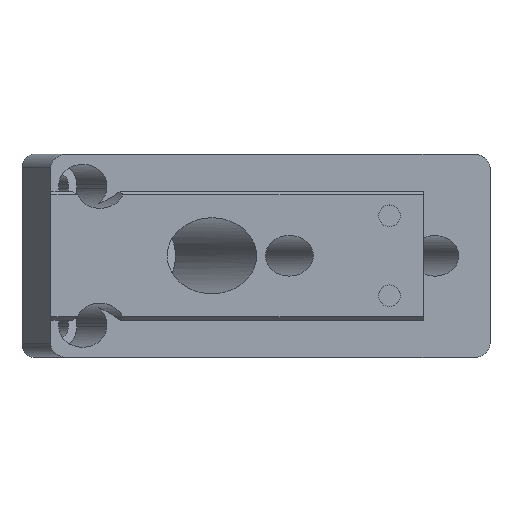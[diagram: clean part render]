
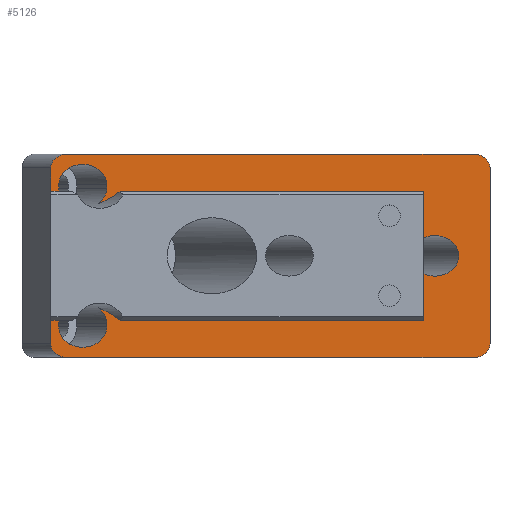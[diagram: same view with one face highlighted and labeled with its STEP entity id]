
A CAD part, top view. The second image highlights one B-rep face of the part: STEP entity #5126.
In plain terms, the highlighted planar face has unit normal (0, 0, 1).
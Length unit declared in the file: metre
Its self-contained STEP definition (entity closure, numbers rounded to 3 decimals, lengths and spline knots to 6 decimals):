
#256=ELLIPSE('',#5452,0.002358,0.002);
#257=ELLIPSE('',#5453,0.002358,0.002);
#258=ELLIPSE('',#5454,0.003538,0.003);
#259=ELLIPSE('',#5455,0.003538,0.003);
#260=ELLIPSE('',#5456,0.003538,0.003);
#261=ELLIPSE('',#5457,0.003538,0.003);
#262=ELLIPSE('',#5458,0.003538,0.003);
#263=ELLIPSE('',#5459,0.003538,0.003);
#264=ELLIPSE('',#5460,0.003538,0.003);
#265=ELLIPSE('',#5461,0.002358,0.002);
#266=ELLIPSE('',#5462,0.002358,0.002);
#492=ORIENTED_EDGE('',*,*,#2066,.T.);
#493=ORIENTED_EDGE('',*,*,#2067,.T.);
#494=ORIENTED_EDGE('',*,*,#2068,.T.);
#495=ORIENTED_EDGE('',*,*,#2069,.T.);
#496=ORIENTED_EDGE('',*,*,#2070,.F.);
#497=ORIENTED_EDGE('',*,*,#2071,.F.);
#498=ORIENTED_EDGE('',*,*,#2072,.F.);
#499=ORIENTED_EDGE('',*,*,#2073,.T.);
#500=ORIENTED_EDGE('',*,*,#2074,.F.);
#501=ORIENTED_EDGE('',*,*,#2075,.F.);
#502=ORIENTED_EDGE('',*,*,#2076,.F.);
#503=ORIENTED_EDGE('',*,*,#2077,.F.);
#504=ORIENTED_EDGE('',*,*,#2078,.F.);
#505=ORIENTED_EDGE('',*,*,#2079,.T.);
#506=ORIENTED_EDGE('',*,*,#2080,.F.);
#507=ORIENTED_EDGE('',*,*,#2081,.T.);
#508=ORIENTED_EDGE('',*,*,#2082,.F.);
#509=ORIENTED_EDGE('',*,*,#2083,.T.);
#510=ORIENTED_EDGE('',*,*,#2084,.F.);
#511=ORIENTED_EDGE('',*,*,#2085,.F.);
#512=ORIENTED_EDGE('',*,*,#2086,.F.);
#513=ORIENTED_EDGE('',*,*,#2087,.T.);
#514=ORIENTED_EDGE('',*,*,#2088,.F.);
#515=ORIENTED_EDGE('',*,*,#2089,.T.);
#516=ORIENTED_EDGE('',*,*,#2090,.F.);
#517=ORIENTED_EDGE('',*,*,#2091,.T.);
#2066=EDGE_CURVE('',#2853,#2854,#3357,.T.);
#2067=EDGE_CURVE('',#2854,#2855,#256,.F.);
#2068=EDGE_CURVE('',#2855,#2856,#3358,.T.);
#2069=EDGE_CURVE('',#2856,#2857,#257,.F.);
#2070=EDGE_CURVE('',#2858,#2857,#3359,.T.);
#2071=EDGE_CURVE('',#2859,#2858,#3360,.T.);
#2072=EDGE_CURVE('',#2860,#2859,#258,.F.);
#2073=EDGE_CURVE('',#2860,#2861,#3361,.T.);
#2074=EDGE_CURVE('',#2862,#2861,#259,.F.);
#2075=EDGE_CURVE('',#2863,#2862,#3362,.T.);
#2076=EDGE_CURVE('',#2864,#2863,#260,.F.);
#2077=EDGE_CURVE('',#2865,#2864,#3363,.T.);
#2078=EDGE_CURVE('',#2866,#2865,#3364,.T.);
#2079=EDGE_CURVE('',#2866,#2867,#261,.T.);
#2080=EDGE_CURVE('',#2868,#2867,#3365,.T.);
#2081=EDGE_CURVE('',#2868,#2869,#3366,.T.);
#2082=EDGE_CURVE('',#2870,#2869,#262,.F.);
#2083=EDGE_CURVE('',#2870,#2871,#3367,.T.);
#2084=EDGE_CURVE('',#2872,#2871,#263,.F.);
#2085=EDGE_CURVE('',#2873,#2872,#3368,.T.);
#2086=EDGE_CURVE('',#2874,#2873,#264,.F.);
#2087=EDGE_CURVE('',#2874,#2875,#3369,.T.);
#2088=EDGE_CURVE('',#2876,#2875,#3370,.T.);
#2089=EDGE_CURVE('',#2876,#2877,#265,.F.);
#2090=EDGE_CURVE('',#2878,#2877,#3371,.T.);
#2091=EDGE_CURVE('',#2878,#2853,#266,.F.);
#2853=VERTEX_POINT('',#7043);
#2854=VERTEX_POINT('',#7044);
#2855=VERTEX_POINT('',#7046);
#2856=VERTEX_POINT('',#7048);
#2857=VERTEX_POINT('',#7050);
#2858=VERTEX_POINT('',#7052);
#2859=VERTEX_POINT('',#7054);
#2860=VERTEX_POINT('',#7056);
#2861=VERTEX_POINT('',#7058);
#2862=VERTEX_POINT('',#7060);
#2863=VERTEX_POINT('',#7062);
#2864=VERTEX_POINT('',#7064);
#2865=VERTEX_POINT('',#7066);
#2866=VERTEX_POINT('',#7068);
#2867=VERTEX_POINT('',#7070);
#2868=VERTEX_POINT('',#7072);
#2869=VERTEX_POINT('',#7074);
#2870=VERTEX_POINT('',#7076);
#2871=VERTEX_POINT('',#7078);
#2872=VERTEX_POINT('',#7080);
#2873=VERTEX_POINT('',#7082);
#2874=VERTEX_POINT('',#7084);
#2875=VERTEX_POINT('',#7086);
#2876=VERTEX_POINT('',#7088);
#2877=VERTEX_POINT('',#7090);
#2878=VERTEX_POINT('',#7092);
#3357=LINE('',#7042,#3855);
#3358=LINE('',#7047,#3856);
#3359=LINE('',#7051,#3857);
#3360=LINE('',#7053,#3858);
#3361=LINE('',#7057,#3859);
#3362=LINE('',#7061,#3860);
#3363=LINE('',#7065,#3861);
#3364=LINE('',#7067,#3862);
#3365=LINE('',#7071,#3863);
#3366=LINE('',#7073,#3864);
#3367=LINE('',#7077,#3865);
#3368=LINE('',#7081,#3866);
#3369=LINE('',#7085,#3867);
#3370=LINE('',#7087,#3868);
#3371=LINE('',#7091,#3869);
#3855=VECTOR('',#5848,1.);
#3856=VECTOR('',#5851,1.);
#3857=VECTOR('',#5854,1.);
#3858=VECTOR('',#5855,1.);
#3859=VECTOR('',#5858,1.);
#3860=VECTOR('',#5861,1.);
#3861=VECTOR('',#5864,1.);
#3862=VECTOR('',#5865,1.);
#3863=VECTOR('',#5868,1.);
#3864=VECTOR('',#5869,1.);
#3865=VECTOR('',#5872,1.);
#3866=VECTOR('',#5875,1.);
#3867=VECTOR('',#5878,1.);
#3868=VECTOR('',#5879,1.);
#3869=VECTOR('',#5882,1.);
#4339=EDGE_LOOP('',(#492,#493,#494,#495,#496,#497,#498,#499,#500,#501,#502,
#503,#504,#505,#506,#507,#508,#509,#510,#511,#512,#513,#514,#515,#516,#517));
#4663=FACE_BOUND('',#4339,.T.);
#4975=PLANE('',#5451);
#5126=ADVANCED_FACE('',(#4663),#4975,.F.);
#5451=AXIS2_PLACEMENT_3D('',#7041,#5846,#5847);
#5452=AXIS2_PLACEMENT_3D('',#7045,#5849,#5850);
#5453=AXIS2_PLACEMENT_3D('',#7049,#5852,#5853);
#5454=AXIS2_PLACEMENT_3D('',#7055,#5856,#5857);
#5455=AXIS2_PLACEMENT_3D('',#7059,#5859,#5860);
#5456=AXIS2_PLACEMENT_3D('',#7063,#5862,#5863);
#5457=AXIS2_PLACEMENT_3D('',#7069,#5866,#5867);
#5458=AXIS2_PLACEMENT_3D('',#7075,#5870,#5871);
#5459=AXIS2_PLACEMENT_3D('',#7079,#5873,#5874);
#5460=AXIS2_PLACEMENT_3D('',#7083,#5876,#5877);
#5461=AXIS2_PLACEMENT_3D('',#7089,#5880,#5881);
#5462=AXIS2_PLACEMENT_3D('',#7093,#5883,#5884);
#5846=DIRECTION('',(0.,0.,-1.));
#5847=DIRECTION('',(-1.,0.,0.));
#5848=DIRECTION('',(0.,1.,0.));
#5849=DIRECTION('',(0.,0.,-1.));
#5850=DIRECTION('',(1.,0.,0.));
#5851=DIRECTION('',(-1.,0.,0.));
#5852=DIRECTION('',(0.,0.,-1.));
#5853=DIRECTION('',(-1.,0.,0.));
#5854=DIRECTION('',(0.,1.,0.));
#5855=DIRECTION('',(-1.,0.,0.));
#5856=DIRECTION('',(0.,0.,-1.));
#5857=DIRECTION('',(-1.,0.,0.));
#5858=DIRECTION('',(0.,1.,0.));
#5859=DIRECTION('',(0.,0.,-1.));
#5860=DIRECTION('',(-1.,0.,0.));
#5861=DIRECTION('',(0.,1.,0.));
#5862=DIRECTION('',(0.,0.,-1.));
#5863=DIRECTION('',(-1.,0.,0.));
#5864=DIRECTION('',(-1.,0.,0.));
#5865=DIRECTION('',(0.,1.,0.));
#5866=DIRECTION('',(0.,0.,-1.));
#5867=DIRECTION('',(-1.,0.,0.));
#5868=DIRECTION('',(0.,1.,0.));
#5869=DIRECTION('',(-1.,0.,0.));
#5870=DIRECTION('',(0.,0.,-1.));
#5871=DIRECTION('',(-1.,0.,0.));
#5872=DIRECTION('',(0.,-1.,0.));
#5873=DIRECTION('',(0.,0.,-1.));
#5874=DIRECTION('',(-1.,0.,0.));
#5875=DIRECTION('',(0.,-1.,0.));
#5876=DIRECTION('',(0.,0.,-1.));
#5877=DIRECTION('',(-1.,0.,0.));
#5878=DIRECTION('',(-1.,0.,0.));
#5879=DIRECTION('',(0.,1.,0.));
#5880=DIRECTION('',(0.,0.,-1.));
#5881=DIRECTION('',(1.,0.,0.));
#5882=DIRECTION('',(-1.,0.,0.));
#5883=DIRECTION('',(0.,0.,-1.));
#5884=DIRECTION('',(-1.,0.,0.));
#7041=CARTESIAN_POINT('',(0.032427,-0.015,0.));
#7042=CARTESIAN_POINT('',(0.064855,-0.015,0.));
#7043=CARTESIAN_POINT('',(0.064855,-0.013,0.));
#7044=CARTESIAN_POINT('',(0.064855,0.013,0.));
#7045=CARTESIAN_POINT('',(0.062496,0.013,0.));
#7046=CARTESIAN_POINT('',(0.062496,0.015,0.));
#7047=CARTESIAN_POINT('',(0.032427,0.015,0.));
#7048=CARTESIAN_POINT('',(0.002358,0.015,0.));
#7049=CARTESIAN_POINT('',(0.002358,0.013,0.));
#7050=CARTESIAN_POINT('',(0.,0.013,0.));
#7051=CARTESIAN_POINT('',(0.,-0.015,0.));
#7052=CARTESIAN_POINT('',(0.,0.007695,0.));
#7053=CARTESIAN_POINT('',(0.055,0.007695,0.));
#7054=CARTESIAN_POINT('',(0.002453,0.007695,0.));
#7055=CARTESIAN_POINT('',(0.004717,0.01,0.));
#7056=CARTESIAN_POINT('',(0.001179,0.01,0.));
#7057=CARTESIAN_POINT('',(0.001179,-0.015,0.));
#7058=CARTESIAN_POINT('',(0.001179,0.0105,0.));
#7059=CARTESIAN_POINT('',(0.004717,0.0105,0.));
#7060=CARTESIAN_POINT('',(0.008254,0.0105,0.));
#7061=CARTESIAN_POINT('',(0.008254,-0.015,0.));
#7062=CARTESIAN_POINT('',(0.008254,0.01,0.));
#7063=CARTESIAN_POINT('',(0.004717,0.01,0.));
#7064=CARTESIAN_POINT('',(0.006981,0.007695,0.));
#7065=CARTESIAN_POINT('',(0.055,0.007695,0.));
#7066=CARTESIAN_POINT('',(0.055,0.007695,0.));
#7067=CARTESIAN_POINT('',(0.055,0.,0.));
#7068=CARTESIAN_POINT('',(0.055,0.002622,0.));
#7069=CARTESIAN_POINT('',(0.056718,0.,0.));
#7070=CARTESIAN_POINT('',(0.055,-0.002622,0.));
#7071=CARTESIAN_POINT('',(0.055,0.,0.));
#7072=CARTESIAN_POINT('',(0.055,-0.007695,0.));
#7073=CARTESIAN_POINT('',(0.055,-0.007695,0.));
#7074=CARTESIAN_POINT('',(0.006981,-0.007695,0.));
#7075=CARTESIAN_POINT('',(0.004717,-0.01,0.));
#7076=CARTESIAN_POINT('',(0.008254,-0.01,0.));
#7077=CARTESIAN_POINT('',(0.008254,-0.015,0.));
#7078=CARTESIAN_POINT('',(0.008254,-0.0105,0.));
#7079=CARTESIAN_POINT('',(0.004717,-0.0105,0.));
#7080=CARTESIAN_POINT('',(0.001179,-0.0105,0.));
#7081=CARTESIAN_POINT('',(0.001179,-0.015,0.));
#7082=CARTESIAN_POINT('',(0.001179,-0.01,0.));
#7083=CARTESIAN_POINT('',(0.004717,-0.01,0.));
#7084=CARTESIAN_POINT('',(0.002453,-0.007695,0.));
#7085=CARTESIAN_POINT('',(0.055,-0.007695,0.));
#7086=CARTESIAN_POINT('',(0.,-0.007695,0.));
#7087=CARTESIAN_POINT('',(0.,-0.015,0.));
#7088=CARTESIAN_POINT('',(0.,-0.013,0.));
#7089=CARTESIAN_POINT('',(0.002358,-0.013,0.));
#7090=CARTESIAN_POINT('',(0.002358,-0.015,0.));
#7091=CARTESIAN_POINT('',(0.032427,-0.015,0.));
#7092=CARTESIAN_POINT('',(0.062496,-0.015,0.));
#7093=CARTESIAN_POINT('',(0.062496,-0.013,0.));
